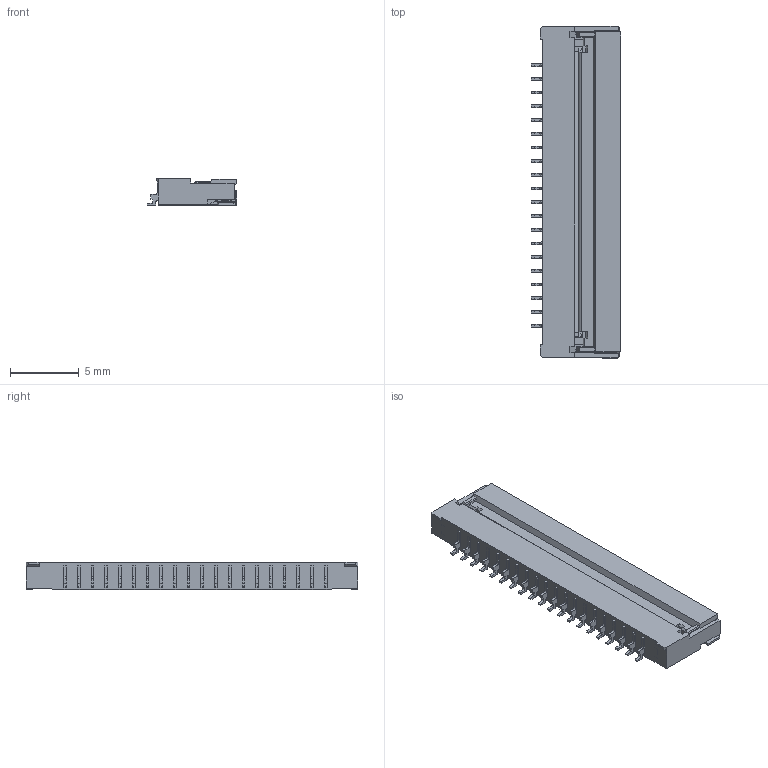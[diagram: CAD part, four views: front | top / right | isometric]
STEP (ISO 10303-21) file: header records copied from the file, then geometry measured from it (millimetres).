
FILE_DESCRIPTION (( 'STEP AP214' ), '1' );
FILE_NAME ('006288020900.STEP', '2023-02-28T02:47:24', ( '' ), ( '' ), 'SwSTEP 2.0', 'SolidWorks 2021', '' );
FILE_SCHEMA (( 'AUTOMOTIVE_DESIGN' ));
Length unit declared in the file: millimetre
Products named in the file (1): 006288020900
Bounding box: 6.5 x 24.22 x 2 mm (x, y, z)
Volume: 196.6 mm3; surface area: 649.9 mm2
Topology: 1 solids, 1 shells, 601 faces, 1728 edges, 1145 vertices
Faces by surface type: plane 455, cylinder 146
Entity records: 19628 total; most frequent: CARTESIAN_POINT 3551, ORIENTED_EDGE 3456, DIRECTION 3213, EDGE_CURVE 1728, LINE 1429, VECTOR 1429, VERTEX_POINT 1145, AXIS2_PLACEMENT_3D 892
